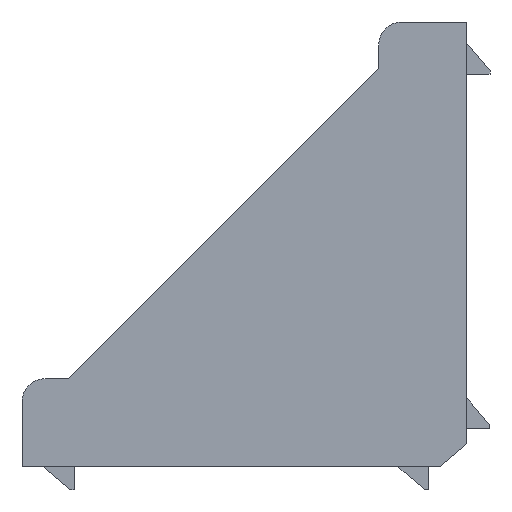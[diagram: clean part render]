
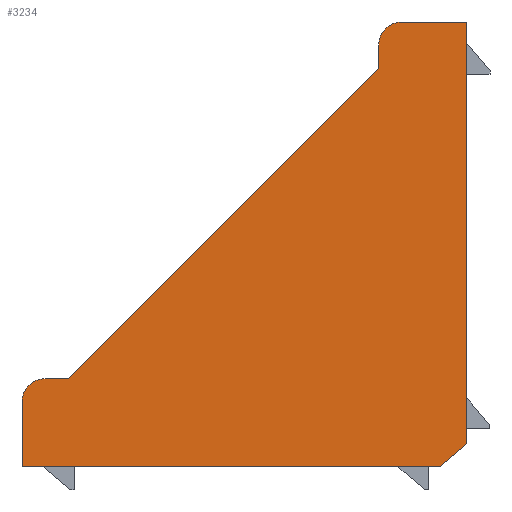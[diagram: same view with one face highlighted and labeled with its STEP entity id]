
A CAD part, left-side view. The second image highlights one B-rep face of the part: STEP entity #3234.
In plain terms, the highlighted planar face has unit normal (-1, 0, 0).
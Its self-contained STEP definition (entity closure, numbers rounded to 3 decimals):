
#17 = DIRECTION ( 'NONE',  ( 0., 0., 1. ) ) ;
#36 = VECTOR ( 'NONE', #4526, 1000. ) ;
#77 = DIRECTION ( 'NONE',  ( 0., 0., -1. ) ) ;
#108 = EDGE_CURVE ( 'NONE', #2778, #2873, #1115, .T. ) ;
#169 = VERTEX_POINT ( 'NONE', #892 ) ;
#221 = CARTESIAN_POINT ( 'NONE',  ( -29., 58., 8.5 ) ) ;
#243 = LINE ( 'NONE', #2336, #2027 ) ;
#296 = EDGE_CURVE ( 'NONE', #612, #169, #243, .T. ) ;
#308 = LINE ( 'NONE', #2402, #2088 ) ;
#358 = EDGE_CURVE ( 'NONE', #169, #1291, #2735, .T. ) ;
#364 = ORIENTED_EDGE ( 'NONE', *, *, #689, .T. ) ;
#394 = PLANE ( 'NONE',  #2641 ) ;
#423 = VECTOR ( 'NONE', #3726, 1000. ) ;
#542 = EDGE_CURVE ( 'NONE', #3874, #1110, #1494, .T. ) ;
#571 = FACE_OUTER_BOUND ( 'NONE', #2077, .T. ) ;
#576 = VECTOR ( 'NONE', #3339, 1000. ) ;
#579 = AXIS2_PLACEMENT_3D ( 'NONE', #4147, #2035, #4501 ) ;
#612 = VERTEX_POINT ( 'NONE', #2976 ) ;
#668 = ORIENTED_EDGE ( 'NONE', *, *, #4103, .F. ) ;
#689 = EDGE_CURVE ( 'NONE', #1110, #2778, #3788, .T. ) ;
#722 = VERTEX_POINT ( 'NONE', #1261 ) ;
#748 = DIRECTION ( 'NONE',  ( 1., 0., 0. ) ) ;
#863 = CARTESIAN_POINT ( 'NONE',  ( -29., 11.5, 52. ) ) ;
#892 = CARTESIAN_POINT ( 'NONE',  ( -29., 0., 58. ) ) ;
#938 = CARTESIAN_POINT ( 'NONE',  ( -29., 58., 0. ) ) ;
#1070 = EDGE_CURVE ( 'NONE', #612, #722, #2135, .T. ) ;
#1099 = LINE ( 'NONE', #4154, #36 ) ;
#1110 = VERTEX_POINT ( 'NONE', #2577 ) ;
#1115 = CIRCLE ( 'NONE', #579, 3. ) ;
#1162 = DIRECTION ( 'NONE',  ( 0., 0., -1. ) ) ;
#1261 = CARTESIAN_POINT ( 'NONE',  ( -29., 11.5, 55. ) ) ;
#1291 = VERTEX_POINT ( 'NONE', #2874 ) ;
#1494 = LINE ( 'NONE', #863, #576 ) ;
#1546 = CARTESIAN_POINT ( 'NONE',  ( -29., 8.5, 55. ) ) ;
#1603 = CARTESIAN_POINT ( 'NONE',  ( -29., 3.575, 0. ) ) ;
#1704 = EDGE_CURVE ( 'NONE', #722, #3874, #4329, .T. ) ;
#1826 = VERTEX_POINT ( 'NONE', #1603 ) ;
#1908 = DIRECTION ( 'NONE',  ( 0., 0., -1. ) ) ;
#2027 = VECTOR ( 'NONE', #2684, 1000. ) ;
#2035 = DIRECTION ( 'NONE',  ( -1., 0., 0. ) ) ;
#2077 = EDGE_LOOP ( 'NONE', ( #668, #4145, #3313, #3102, #3837, #2228, #2533, #364, #4258, #2685 ) ) ;
#2088 = VECTOR ( 'NONE', #2747, 1000. ) ;
#2135 = CIRCLE ( 'NONE', #3752, 3. ) ;
#2228 = ORIENTED_EDGE ( 'NONE', *, *, #1704, .T. ) ;
#2336 = CARTESIAN_POINT ( 'NONE',  ( -29., 5.5, 58. ) ) ;
#2372 = EDGE_CURVE ( 'NONE', #2877, #2873, #3526, .T. ) ;
#2402 = CARTESIAN_POINT ( 'NONE',  ( -29., 3.575, 0. ) ) ;
#2533 = ORIENTED_EDGE ( 'NONE', *, *, #542, .T. ) ;
#2577 = CARTESIAN_POINT ( 'NONE',  ( -29., 52., 11.5 ) ) ;
#2590 = VECTOR ( 'NONE', #17, 1000. ) ;
#2628 = VECTOR ( 'NONE', #77, 1000. ) ;
#2641 = AXIS2_PLACEMENT_3D ( 'NONE', #2833, #748, #3220 ) ;
#2684 = DIRECTION ( 'NONE',  ( 0., -1., 0. ) ) ;
#2685 = ORIENTED_EDGE ( 'NONE', *, *, #2372, .F. ) ;
#2735 = LINE ( 'NONE', #3403, #2628 ) ;
#2747 = DIRECTION ( 'NONE',  ( 0., -0.766, 0.643 ) ) ;
#2778 = VERTEX_POINT ( 'NONE', #3706 ) ;
#2833 = CARTESIAN_POINT ( 'NONE',  ( -29., 0., 0. ) ) ;
#2873 = VERTEX_POINT ( 'NONE', #221 ) ;
#2874 = CARTESIAN_POINT ( 'NONE',  ( -29., 0., 3. ) ) ;
#2877 = VERTEX_POINT ( 'NONE', #938 ) ;
#2976 = CARTESIAN_POINT ( 'NONE',  ( -29., 8.5, 58. ) ) ;
#3102 = ORIENTED_EDGE ( 'NONE', *, *, #296, .F. ) ;
#3220 = DIRECTION ( 'NONE',  ( 0., 0., -1. ) ) ;
#3234 = ADVANCED_FACE ( 'NONE', ( #571 ), #394, .F. ) ;
#3313 = ORIENTED_EDGE ( 'NONE', *, *, #358, .F. ) ;
#3339 = DIRECTION ( 'NONE',  ( 0., 0.707, -0.707 ) ) ;
#3362 = CARTESIAN_POINT ( 'NONE',  ( -29., 52., 11.5 ) ) ;
#3403 = CARTESIAN_POINT ( 'NONE',  ( -29., 0., 0. ) ) ;
#3526 = LINE ( 'NONE', #3559, #2590 ) ;
#3559 = CARTESIAN_POINT ( 'NONE',  ( -29., 58., 0. ) ) ;
#3706 = CARTESIAN_POINT ( 'NONE',  ( -29., 55., 11.5 ) ) ;
#3726 = DIRECTION ( 'NONE',  ( 0., 1., 0. ) ) ;
#3752 = AXIS2_PLACEMENT_3D ( 'NONE', #1546, #4026, #1908 ) ;
#3788 = LINE ( 'NONE', #3362, #423 ) ;
#3837 = ORIENTED_EDGE ( 'NONE', *, *, #1070, .T. ) ;
#3874 = VERTEX_POINT ( 'NONE', #4357 ) ;
#4002 = CARTESIAN_POINT ( 'NONE',  ( -29., 11.5, 58. ) ) ;
#4026 = DIRECTION ( 'NONE',  ( -1., 0., 0. ) ) ;
#4103 = EDGE_CURVE ( 'NONE', #1826, #2877, #1099, .T. ) ;
#4145 = ORIENTED_EDGE ( 'NONE', *, *, #4571, .T. ) ;
#4147 = CARTESIAN_POINT ( 'NONE',  ( -29., 55., 8.5 ) ) ;
#4154 = CARTESIAN_POINT ( 'NONE',  ( -29., 0., 0. ) ) ;
#4232 = VECTOR ( 'NONE', #1162, 1000. ) ;
#4258 = ORIENTED_EDGE ( 'NONE', *, *, #108, .T. ) ;
#4329 = LINE ( 'NONE', #4002, #4232 ) ;
#4357 = CARTESIAN_POINT ( 'NONE',  ( -29., 11.5, 52. ) ) ;
#4501 = DIRECTION ( 'NONE',  ( 0., 0., -1. ) ) ;
#4526 = DIRECTION ( 'NONE',  ( 0., 1., 0. ) ) ;
#4571 = EDGE_CURVE ( 'NONE', #1826, #1291, #308, .T. ) ;
